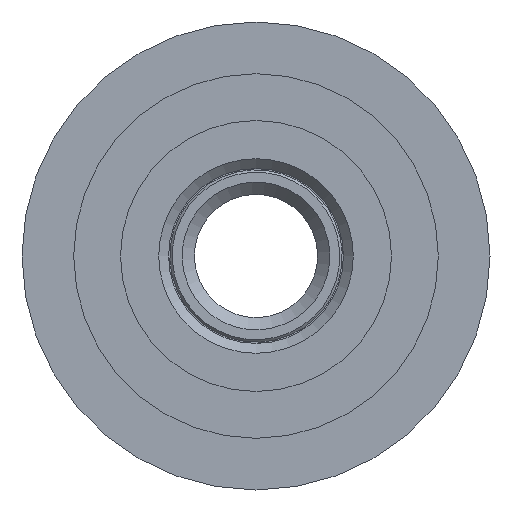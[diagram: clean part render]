
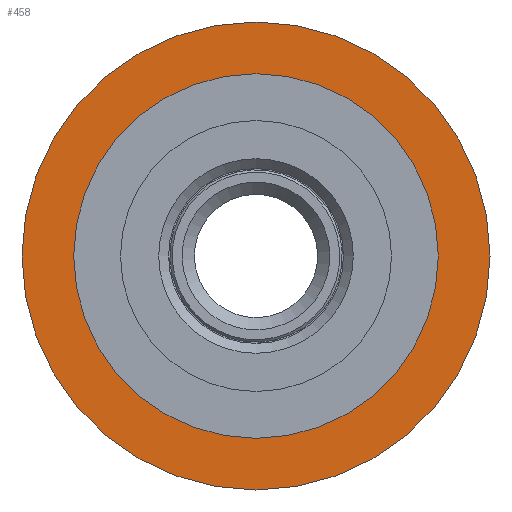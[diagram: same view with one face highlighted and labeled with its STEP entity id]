
A CAD part, front view. The second image highlights one B-rep face of the part: STEP entity #458.
In plain terms, the highlighted planar face has unit normal (0, -1, 0).
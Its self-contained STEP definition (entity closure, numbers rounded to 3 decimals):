
#132=FACE_BOUND('',#196,.T.);
#141=PLANE('',#558);
#167=FACE_OUTER_BOUND('',#195,.T.);
#195=EDGE_LOOP('',(#390));
#196=EDGE_LOOP('',(#391));
#256=CIRCLE('',#546,9.5);
#259=CIRCLE('',#550,7.4);
#285=VERTEX_POINT('',#863);
#288=VERTEX_POINT('',#871);
#318=EDGE_CURVE('',#285,#285,#256,.T.);
#323=EDGE_CURVE('',#288,#288,#259,.T.);
#390=ORIENTED_EDGE('',*,*,#318,.T.);
#391=ORIENTED_EDGE('',*,*,#323,.F.);
#458=ADVANCED_FACE('',(#167,#132),#141,.T.);
#546=AXIS2_PLACEMENT_3D('',#864,#662,#663);
#550=AXIS2_PLACEMENT_3D('',#873,#672,#673);
#558=AXIS2_PLACEMENT_3D('',#885,#690,#691);
#662=DIRECTION('center_axis',(0.,-1.,0.));
#663=DIRECTION('ref_axis',(0.,0.,-1.));
#672=DIRECTION('center_axis',(0.,-1.,0.));
#673=DIRECTION('ref_axis',(0.,0.,-1.));
#690=DIRECTION('center_axis',(0.,-1.,0.));
#691=DIRECTION('ref_axis',(0.,0.,-1.));
#863=CARTESIAN_POINT('',(0.,2.,9.5));
#864=CARTESIAN_POINT('Origin',(0.,2.,0.));
#871=CARTESIAN_POINT('',(0.,2.,7.4));
#873=CARTESIAN_POINT('Origin',(0.,2.,0.));
#885=CARTESIAN_POINT('Origin',(0.,2.,0.));
